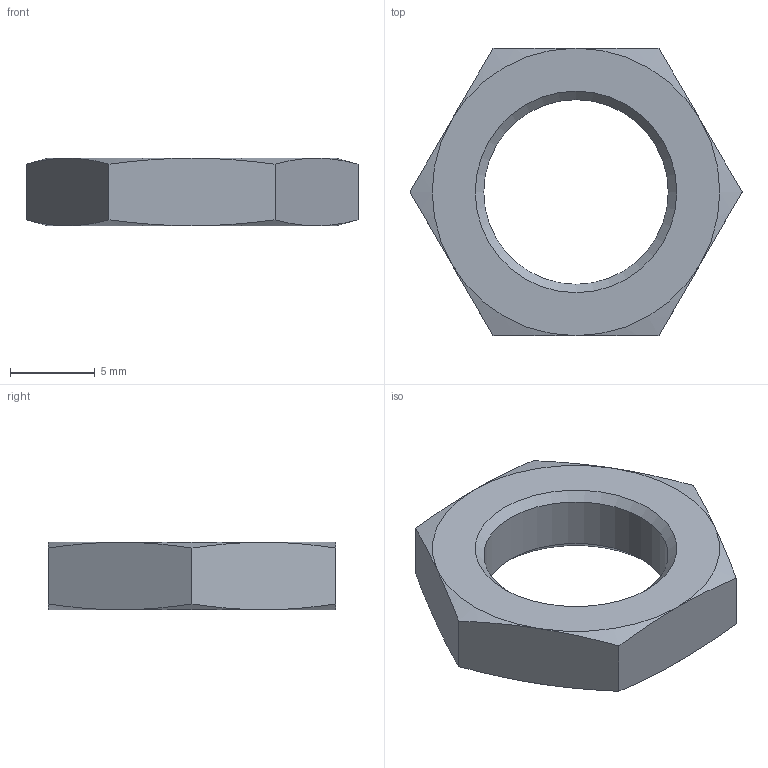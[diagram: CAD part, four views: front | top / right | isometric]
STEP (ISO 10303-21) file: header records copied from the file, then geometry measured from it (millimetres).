
FILE_DESCRIPTION( ( 'STEP AP214' ), '1' );
FILE_NAME( 'N:/Engineering/CAD_Solid/Wirbelstrom/Wirbelstromsensoren/Muttern/Mutter_M12x1.stp', '2011-12-15T12:05:20', ( ' ' ), ( ' ' ), 'XStep 1.0', ' ', ' ' );
FILE_SCHEMA( ( 'CONFIG_CONTROL_DESIGN) ( )' ) );
Length unit declared in the file: metre
Products named in the file (1): 1
Bounding box: 19.63 x 17 x 4 mm (x, y, z)
Volume: 612.8 mm3; surface area: 654 mm2
Topology: 1 solids, 1 shells, 23 faces, 49 edges, 28 vertices
Faces by surface type: cone 14, plane 8, cylinder 1
Full cylindrical faces by diameter (mm): 10.917 x1
Entity records: 828 total; most frequent: CARTESIAN_POINT 178, ORIENTED_EDGE 92, DIRECTION 86, EDGE_CURVE 46, AXIS2_PLACEMENT_3D 40, EDGE_LOOP 28, VERTEX_POINT 28, FACE_OUTER_BOUND 24
